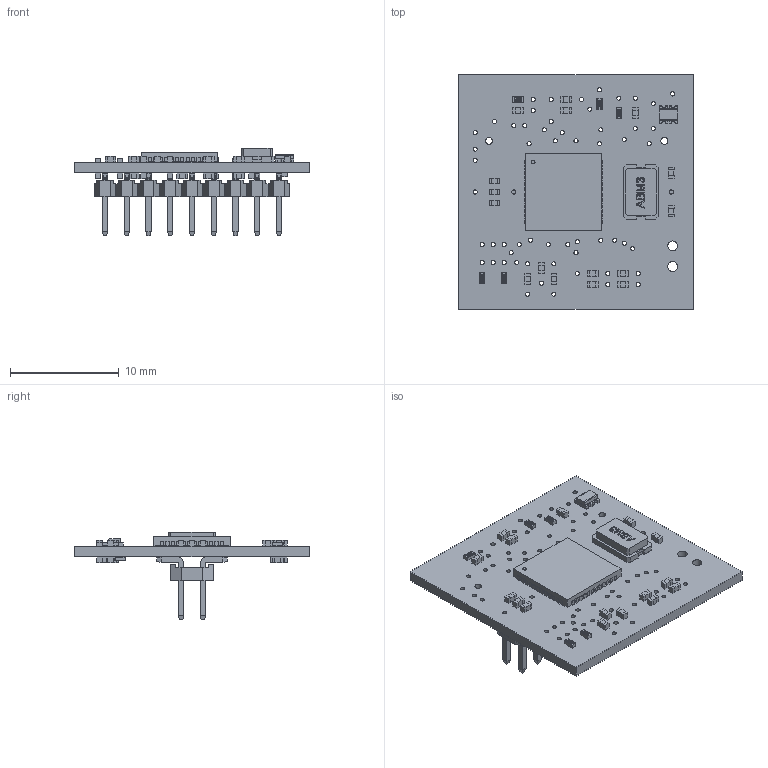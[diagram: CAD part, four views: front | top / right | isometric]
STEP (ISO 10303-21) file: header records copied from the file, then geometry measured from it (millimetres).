
FILE_DESCRIPTION(/* description */ (''),/* implementation_level */ '2;1');
FILE_NAME(/* name */ 'O:/Projects/10840 - PicoPort/documents/PicoPort.step',/* time_stamp */ '2019-02-20T13:30:28-06:00',/* author */ ('rnunez4AQMR'),/* organization */ (''),/* preprocessor_version */ 'ST-DEVELOPER v17.2',/* originating_system */ 'Autodesk Translation Framework v7.6.0.251',/* authorisation */ '');
FILE_SCHEMA (('AUTOMOTIVE_DESIGN { 1 0 10303 214 3 1 1 }'));
Length unit declared in the file: millimetre
Products named in the file (9): 10840-0aa-0824; PCB Component; Board; 10k; 10634; 10839; 20pF; 12MHz; 10838
Assembly tree (40 placements, depth 3):
  10840-0aa-0824
    PCB Component
      Board
      10k  x8
      10634
      10839
      20pF  x26
      12MHz
      10838
Bounding box: 21.59 x 21.59 x 8.08 mm (x, y, z)
Volume: 624.7 mm3; surface area: 1969 mm2
Topology: 114 solids, 114 shells, 2394 faces, 6628 edges, 4476 vertices
Faces by surface type: plane 1852, cylinder 378, sphere 128, bspline 36
Full cylindrical faces by diameter (mm): 0.35 x1, 0.381 x59, 0.635 x2, 0.9 x2
Entity records: 43906 total; most frequent: CARTESIAN_POINT 9389, ORIENTED_EDGE 6994, DIRECTION 6338, EDGE_CURVE 3497, LINE 3014, VECTOR 3014, VERTEX_POINT 2301, AXIS2_PLACEMENT_3D 1662
